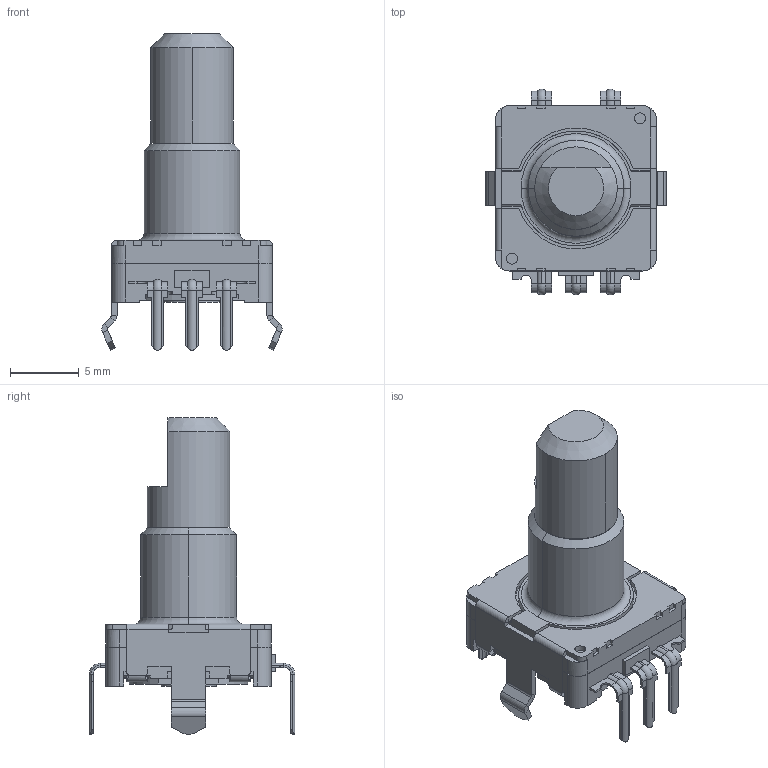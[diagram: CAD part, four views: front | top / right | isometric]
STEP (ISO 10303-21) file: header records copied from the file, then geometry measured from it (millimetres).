
FILE_DESCRIPTION (( 'STEP AP214' ), '1' );
FILE_NAME ('EC11N1520401.STEP', '2019-06-06T05:23:14', ( '' ), ( '' ), 'SwSTEP 2.0', 'SolidWorks 2017', '' );
FILE_SCHEMA (( 'AUTOMOTIVE_DESIGN' ));
Length unit declared in the file: millimetre
Products named in the file (1): EC11N1520401
Bounding box: 13.1 x 14.95 x 23 mm (x, y, z)
Volume: 1040.4 mm3; surface area: 1118 mm2
Topology: 1 solids, 2 shells, 566 faces, 1477 edges, 916 vertices
Faces by surface type: plane 399, cylinder 140, torus 12, bspline 8, cone 7
Entity records: 21996 total; most frequent: CARTESIAN_POINT 3346, ORIENTED_EDGE 2954, DIRECTION 2802, EDGE_CURVE 1477, LINE 1146, VECTOR 1146, VERTEX_POINT 916, AXIS2_PLACEMENT_3D 828
